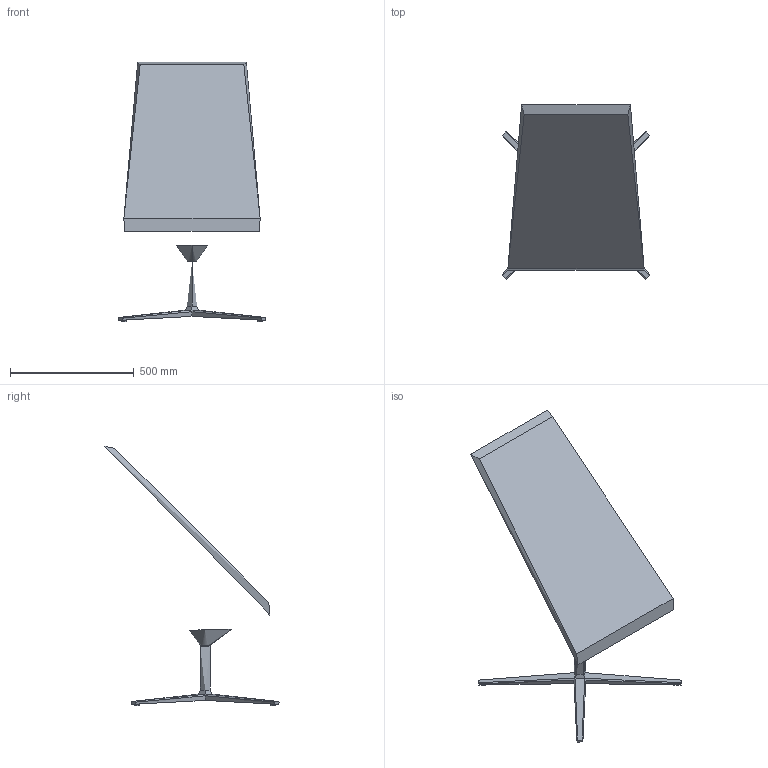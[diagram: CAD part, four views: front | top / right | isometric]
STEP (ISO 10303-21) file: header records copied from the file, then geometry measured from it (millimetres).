
FILE_DESCRIPTION(/* description */ (''),/* implementation_level */ '2;1');
FILE_NAME(/* name */ 'SKYV-F~1',/* time_stamp */ '2017-05-03T16:37:39+02:00',/* author */ (''),/* organization */ (''),/* preprocessor_version */ 'ST-DEVELOPER v15',/* originating_system */ '',/* authorisation */ '');
FILE_SCHEMA (('CONFIG_CONTROL_DESIGN'));
Length unit declared in the file: millimetre
Products named in the file (1): Document
Bounding box: 597.58 x 703.73 x 1048.01 mm (x, y, z)
Volume: 47183322.2 mm3; surface area: 1627166.5 mm2
Topology: 5 solids, 8 shells, 71 faces, 154 edges, 95 vertices
Faces by surface type: bspline 45, plane 26
Entity records: 17487 total; most frequent: CARTESIAN_POINT 16475, ORIENTED_EDGE 293, EDGE_CURVE 151, VERTEX_POINT 93, EDGE_LOOP 72, ADVANCED_FACE 71, FACE_OUTER_BOUND 71, B_SPLINE_CURVE_WITH_KNOTS 57
